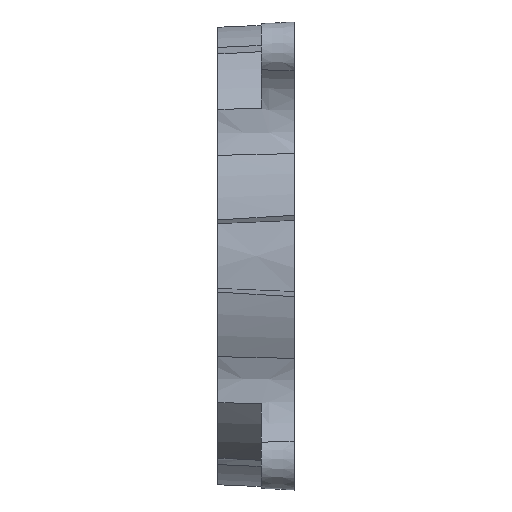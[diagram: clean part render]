
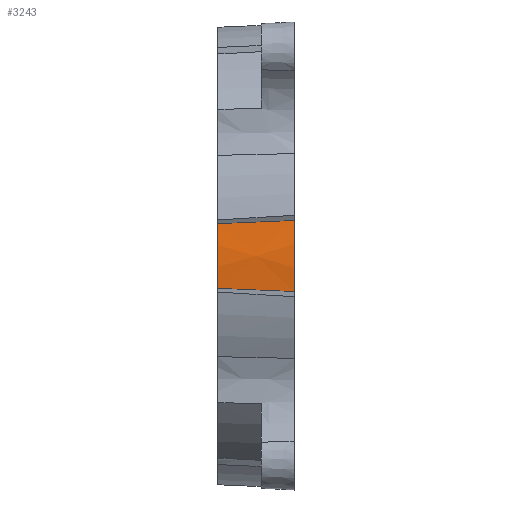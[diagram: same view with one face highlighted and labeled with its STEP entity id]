
A CAD part, left-side view. The second image highlights one B-rep face of the part: STEP entity #3243.
In plain terms, the highlighted conical face has half-angle 3 degrees and reference radius 57.397 mm.
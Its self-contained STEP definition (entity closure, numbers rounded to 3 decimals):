
#590=CARTESIAN_POINT('',(0.,22.,0.));
#591=DIRECTION('',(0.,1.,0.));
#592=DIRECTION('',(-0.988,0.,-0.154));
#593=AXIS2_PLACEMENT_3D('',#590,#591,#592);
#598=CARTESIAN_POINT('',(-57.256,22.,8.925));
#599=CARTESIAN_POINT('',(-57.115,19.628,9.026));
#600=CARTESIAN_POINT('',(-56.832,14.909,9.228));
#601=CARTESIAN_POINT('',(-56.411,7.91,9.526));
#602=CARTESIAN_POINT('',(-56.132,3.295,9.722));
#603=CARTESIAN_POINT('',(-55.992,1.,9.82));
#608=CARTESIAN_POINT('',(0.,1.,0.));
#609=DIRECTION('',(0.,1.,0.));
#610=DIRECTION('',(-0.985,0.,-0.173));
#611=AXIS2_PLACEMENT_3D('',#608,#609,#610);
#616=CARTESIAN_POINT('',(-55.992,1.,-9.82));
#617=CARTESIAN_POINT('',(-56.132,3.295,-9.722));
#618=CARTESIAN_POINT('',(-56.411,7.91,-9.526));
#619=CARTESIAN_POINT('',(-56.832,14.909,-9.228));
#620=CARTESIAN_POINT('',(-57.115,19.628,-9.026));
#621=CARTESIAN_POINT('',(-57.256,22.,-8.925));
#2525=CARTESIAN_POINT('',(-55.992,1.,-9.82));
#2526=CARTESIAN_POINT('',(-55.992,1.,9.82));
#2527=VERTEX_POINT('',#2525);
#2528=VERTEX_POINT('',#2526);
#2637=CARTESIAN_POINT('',(-57.256,22.,-8.925));
#2638=CARTESIAN_POINT('',(-57.256,22.,8.925));
#2639=VERTEX_POINT('',#2637);
#2640=VERTEX_POINT('',#2638);
#3231=CARTESIAN_POINT('',(0.,11.5,0.));
#3232=DIRECTION('',(0.,1.,0.));
#3233=DIRECTION('',(1.,0.,0.));
#3234=AXIS2_PLACEMENT_3D('',#3231,#3232,#3233);
#3235=CONICAL_SURFACE('',#3234,57.397,3.);
#3236=ORIENTED_EDGE('',*,*,#2856,.T.);
#3238=ORIENTED_EDGE('',*,*,#3237,.T.);
#3239=ORIENTED_EDGE('',*,*,#3058,.F.);
#3240=ORIENTED_EDGE('',*,*,#3224,.T.);
#3241=EDGE_LOOP('',(#3236,#3238,#3239,#3240));
#3242=FACE_OUTER_BOUND('',#3241,.F.);
#594=CIRCLE('',#593,57.948);
#604=B_SPLINE_CURVE_WITH_KNOTS('',3,(#598,#599,#600,#601,#602,#603),
.UNSPECIFIED.,.F.,.F.,(4,1,1,4),(0.,0.333,0.667,1.),
.UNSPECIFIED.);
#612=CIRCLE('',#611,56.847);
#622=B_SPLINE_CURVE_WITH_KNOTS('',3,(#616,#617,#618,#619,#620,#621),
.UNSPECIFIED.,.F.,.F.,(4,1,1,4),(0.,0.333,0.667,1.),
.UNSPECIFIED.);
#2856=EDGE_CURVE('',#2639,#2640,#594,.T.);
#3058=EDGE_CURVE('',#2527,#2528,#612,.T.);
#3224=EDGE_CURVE('',#2527,#2639,#622,.T.);
#3237=EDGE_CURVE('',#2640,#2528,#604,.T.);
#3243=ADVANCED_FACE('',(#3242),#3235,.T.);
